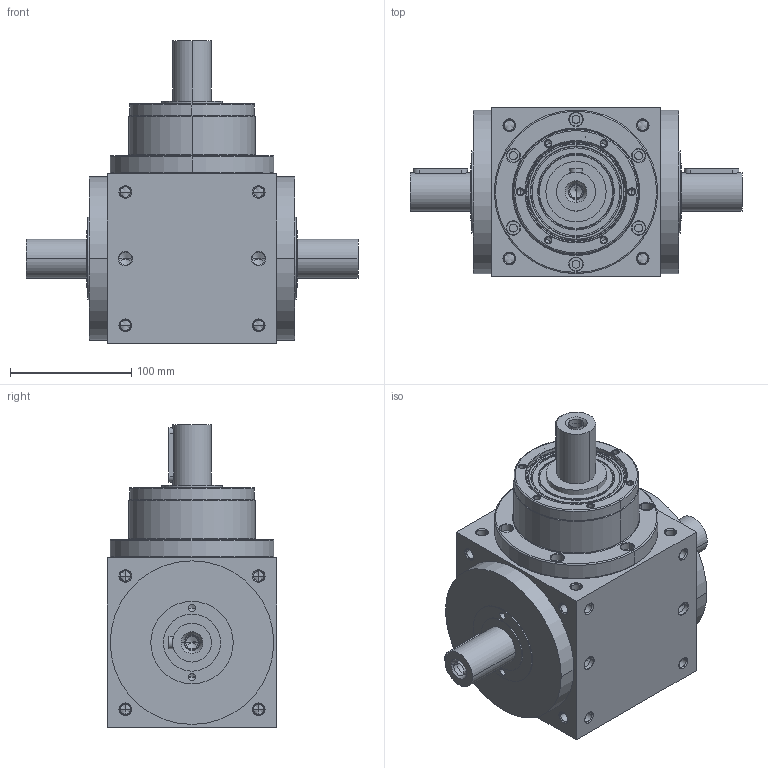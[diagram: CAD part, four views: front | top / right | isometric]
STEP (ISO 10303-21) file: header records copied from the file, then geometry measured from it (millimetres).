
FILE_DESCRIPTION((''),'2;1');
FILE_NAME('AT140L-1_ASM','2008-12-31T',('d00176'),(''),'PRO/ENGINEER BY PARAMETRIC TECHNOLOGY CORPORATION, 2006170','PRO/ENGINEER BY PARAMETRIC TECHNOLOGY CORPORATION, 2006170','');
FILE_SCHEMA(('CONFIG_CONTROL_DESIGN'));
Length unit declared in the file: millimetre
Products named in the file (4): ATL-HOUSING-1-6; P1801600001; 22400071006; AT140L-1_ASM
Assembly tree (3 placements, depth 2):
  AT140L-1_ASM
    ATL-HOUSING-1-6
    P1801600001
    22400071006
Bounding box: 274 x 140 x 250 mm (x, y, z)
Volume: 3661451 mm3; surface area: 270291.9 mm2
Topology: 4 solids, 37 shells, 613 faces, 1515 edges, 898 vertices
Faces by surface type: cylinder 284, cone 210, plane 81, torus 38
Entity records: 18314 total; most frequent: CARTESIAN_POINT 3849, DIRECTION 3247, ORIENTED_EDGE 2738, EDGE_CURVE 1435, AXIS2_PLACEMENT_3D 1360, VERTEX_POINT 898, CIRCLE 736, EDGE_LOOP 729
